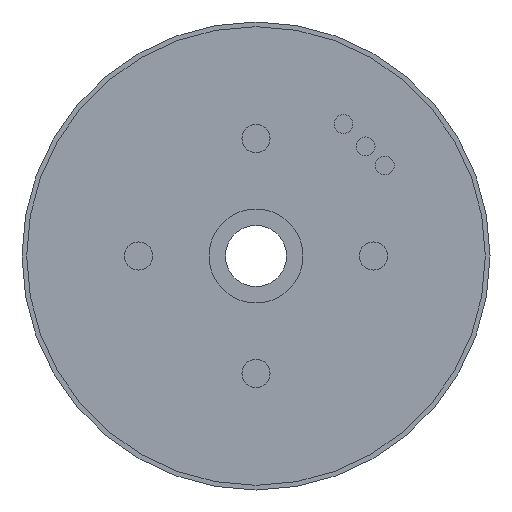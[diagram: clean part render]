
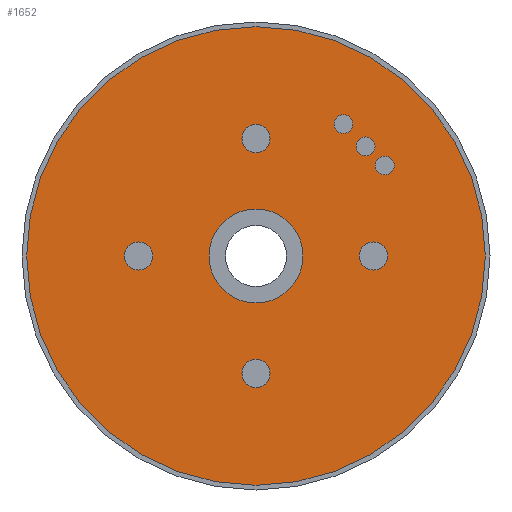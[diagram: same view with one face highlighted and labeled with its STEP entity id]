
A CAD part, left-side view. The second image highlights one B-rep face of the part: STEP entity #1652.
In plain terms, the highlighted planar face has unit normal (-1, 0, 0).
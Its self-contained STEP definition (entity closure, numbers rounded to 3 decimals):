
#47=CARTESIAN_POINT('',(-31.104,0.,0.));
#48=DIRECTION('',(1.,0.,0.));
#49=DIRECTION('',(0.,0.,1.));
#50=AXIS2_PLACEMENT_3D('',#47,#48,#49);
#56=CARTESIAN_POINT('',(-31.104,0.,0.));
#57=DIRECTION('',(-1.,0.,0.));
#58=DIRECTION('',(0.,0.,1.));
#59=AXIS2_PLACEMENT_3D('',#56,#57,#58);
#65=CARTESIAN_POINT('',(-31.104,0.,0.));
#66=DIRECTION('',(-1.,0.,0.));
#67=DIRECTION('',(0.,-1.,0.));
#68=AXIS2_PLACEMENT_3D('',#65,#66,#67);
#70=CARTESIAN_POINT('',(-31.104,0.,0.));
#71=DIRECTION('',(-1.,0.,0.));
#72=DIRECTION('',(0.,1.,0.));
#73=AXIS2_PLACEMENT_3D('',#70,#71,#72);
#75=CARTESIAN_POINT('',(-31.104,0.,12.5));
#76=DIRECTION('',(-1.,0.,0.));
#77=DIRECTION('',(0.,-1.,0.));
#78=AXIS2_PLACEMENT_3D('',#75,#76,#77);
#80=CARTESIAN_POINT('',(-31.104,0.,12.5));
#81=DIRECTION('',(-1.,0.,0.));
#82=DIRECTION('',(0.,1.,0.));
#83=AXIS2_PLACEMENT_3D('',#80,#81,#82);
#85=CARTESIAN_POINT('',(-31.104,-12.5,0.));
#86=DIRECTION('',(-1.,0.,0.));
#87=DIRECTION('',(0.,0.,-1.));
#88=AXIS2_PLACEMENT_3D('',#85,#86,#87);
#90=CARTESIAN_POINT('',(-31.104,-12.5,0.));
#91=DIRECTION('',(-1.,0.,0.));
#92=DIRECTION('',(0.,0.,1.));
#93=AXIS2_PLACEMENT_3D('',#90,#91,#92);
#95=CARTESIAN_POINT('',(-31.104,0.,-12.5));
#96=DIRECTION('',(-1.,0.,0.));
#97=DIRECTION('',(0.,1.,0.));
#98=AXIS2_PLACEMENT_3D('',#95,#96,#97);
#100=CARTESIAN_POINT('',(-31.104,0.,-12.5));
#101=DIRECTION('',(-1.,0.,0.));
#102=DIRECTION('',(0.,-1.,0.));
#103=AXIS2_PLACEMENT_3D('',#100,#101,#102);
#105=CARTESIAN_POINT('',(-31.104,12.5,0.));
#106=DIRECTION('',(-1.,0.,0.));
#107=DIRECTION('',(0.,0.,1.));
#108=AXIS2_PLACEMENT_3D('',#105,#106,#107);
#110=CARTESIAN_POINT('',(-31.104,12.5,0.));
#111=DIRECTION('',(-1.,0.,0.));
#112=DIRECTION('',(0.,0.,-1.));
#113=AXIS2_PLACEMENT_3D('',#110,#111,#112);
#115=CARTESIAN_POINT('',(-31.104,-11.667,11.667));
#116=DIRECTION('',(-1.,0.,0.));
#117=DIRECTION('',(0.,-1.,0.));
#118=AXIS2_PLACEMENT_3D('',#115,#116,#117);
#120=CARTESIAN_POINT('',(-31.104,-11.667,11.667));
#121=DIRECTION('',(-1.,0.,0.));
#122=DIRECTION('',(0.,1.,0.));
#123=AXIS2_PLACEMENT_3D('',#120,#121,#122);
#125=CARTESIAN_POINT('',(-31.104,-9.302,14.032));
#126=DIRECTION('',(-1.,0.,0.));
#127=DIRECTION('',(0.,-1.,0.));
#128=AXIS2_PLACEMENT_3D('',#125,#126,#127);
#130=CARTESIAN_POINT('',(-31.104,-9.302,14.032));
#131=DIRECTION('',(-1.,0.,0.));
#132=DIRECTION('',(0.,1.,0.));
#133=AXIS2_PLACEMENT_3D('',#130,#131,#132);
#135=CARTESIAN_POINT('',(-31.104,-13.704,9.63));
#136=DIRECTION('',(-1.,0.,0.));
#137=DIRECTION('',(0.,-1.,0.));
#138=AXIS2_PLACEMENT_3D('',#135,#136,#137);
#140=CARTESIAN_POINT('',(-31.104,-13.704,9.63));
#141=DIRECTION('',(-1.,0.,0.));
#142=DIRECTION('',(0.,1.,0.));
#143=AXIS2_PLACEMENT_3D('',#140,#141,#142);
#1263=CARTESIAN_POINT('',(-31.104,0.,24.4));
#1265=VERTEX_POINT('',#1263);
#1367=CARTESIAN_POINT('',(-31.104,0.,-24.4));
#1369=VERTEX_POINT('',#1367);
#1429=CARTESIAN_POINT('',(-31.104,-5.,0.));
#1430=CARTESIAN_POINT('',(-31.104,5.,0.));
#1431=VERTEX_POINT('',#1429);
#1432=VERTEX_POINT('',#1430);
#1441=CARTESIAN_POINT('',(-31.104,-1.5,12.5));
#1442=CARTESIAN_POINT('',(-31.104,1.5,12.5));
#1443=VERTEX_POINT('',#1441);
#1444=VERTEX_POINT('',#1442);
#1449=CARTESIAN_POINT('',(-31.104,-12.5,-1.5));
#1450=CARTESIAN_POINT('',(-31.104,-12.5,1.5));
#1451=VERTEX_POINT('',#1449);
#1452=VERTEX_POINT('',#1450);
#1457=CARTESIAN_POINT('',(-31.104,1.5,-12.5));
#1458=CARTESIAN_POINT('',(-31.104,-1.5,-12.5));
#1459=VERTEX_POINT('',#1457);
#1460=VERTEX_POINT('',#1458);
#1465=CARTESIAN_POINT('',(-31.104,12.5,1.5));
#1466=CARTESIAN_POINT('',(-31.104,12.5,-1.5));
#1467=VERTEX_POINT('',#1465);
#1468=VERTEX_POINT('',#1466);
#1481=CARTESIAN_POINT('',(-31.104,-12.667,
11.667));
#1482=CARTESIAN_POINT('',(-31.104,-10.667,
11.667));
#1483=VERTEX_POINT('',#1481);
#1484=VERTEX_POINT('',#1482);
#1485=CARTESIAN_POINT('',(-31.104,-10.302,
14.032));
#1486=CARTESIAN_POINT('',(-31.104,-8.302,
14.032));
#1487=VERTEX_POINT('',#1485);
#1488=VERTEX_POINT('',#1486);
#1489=CARTESIAN_POINT('',(-31.104,-14.704,
9.63));
#1490=CARTESIAN_POINT('',(-31.104,-12.704,
9.63));
#1491=VERTEX_POINT('',#1489);
#1492=VERTEX_POINT('',#1490);
#1595=CARTESIAN_POINT('',(-31.104,0.,0.));
#1596=DIRECTION('',(1.,0.,0.));
#1597=DIRECTION('',(0.,0.,1.));
#1598=AXIS2_PLACEMENT_3D('',#1595,#1596,#1597);
#1599=PLANE('',#1598);
#1600=ORIENTED_EDGE('',*,*,#1588,.F.);
#1601=ORIENTED_EDGE('',*,*,#1577,.T.);
#1602=EDGE_LOOP('',(#1600,#1601));
#1603=FACE_OUTER_BOUND('',#1602,.F.);
#1605=ORIENTED_EDGE('',*,*,#1604,.T.);
#1607=ORIENTED_EDGE('',*,*,#1606,.T.);
#1608=EDGE_LOOP('',(#1605,#1607));
#1609=FACE_BOUND('',#1608,.F.);
#1611=ORIENTED_EDGE('',*,*,#1610,.T.);
#1613=ORIENTED_EDGE('',*,*,#1612,.T.);
#1614=EDGE_LOOP('',(#1611,#1613));
#1615=FACE_BOUND('',#1614,.F.);
#1617=ORIENTED_EDGE('',*,*,#1616,.T.);
#1619=ORIENTED_EDGE('',*,*,#1618,.T.);
#1620=EDGE_LOOP('',(#1617,#1619));
#1621=FACE_BOUND('',#1620,.F.);
#1623=ORIENTED_EDGE('',*,*,#1622,.T.);
#1625=ORIENTED_EDGE('',*,*,#1624,.T.);
#1626=EDGE_LOOP('',(#1623,#1625));
#1627=FACE_BOUND('',#1626,.F.);
#1629=ORIENTED_EDGE('',*,*,#1628,.T.);
#1631=ORIENTED_EDGE('',*,*,#1630,.T.);
#1632=EDGE_LOOP('',(#1629,#1631));
#1633=FACE_BOUND('',#1632,.F.);
#1635=ORIENTED_EDGE('',*,*,#1634,.T.);
#1637=ORIENTED_EDGE('',*,*,#1636,.T.);
#1638=EDGE_LOOP('',(#1635,#1637));
#1639=FACE_BOUND('',#1638,.F.);
#1641=ORIENTED_EDGE('',*,*,#1640,.T.);
#1643=ORIENTED_EDGE('',*,*,#1642,.T.);
#1644=EDGE_LOOP('',(#1641,#1643));
#1645=FACE_BOUND('',#1644,.F.);
#1647=ORIENTED_EDGE('',*,*,#1646,.T.);
#1649=ORIENTED_EDGE('',*,*,#1648,.T.);
#1650=EDGE_LOOP('',(#1647,#1649));
#1651=FACE_BOUND('',#1650,.F.);
#51=CIRCLE('',#50,24.4);
#60=CIRCLE('',#59,24.4);
#69=CIRCLE('',#68,5.);
#74=CIRCLE('',#73,5.);
#79=CIRCLE('',#78,1.5);
#84=CIRCLE('',#83,1.5);
#89=CIRCLE('',#88,1.5);
#94=CIRCLE('',#93,1.5);
#99=CIRCLE('',#98,1.5);
#104=CIRCLE('',#103,1.5);
#109=CIRCLE('',#108,1.5);
#114=CIRCLE('',#113,1.5);
#119=CIRCLE('',#118,1.);
#124=CIRCLE('',#123,1.);
#129=CIRCLE('',#128,1.);
#134=CIRCLE('',#133,1.);
#139=CIRCLE('',#138,1.);
#144=CIRCLE('',#143,1.);
#1577=EDGE_CURVE('',#1265,#1369,#51,.T.);
#1588=EDGE_CURVE('',#1265,#1369,#60,.T.);
#1604=EDGE_CURVE('',#1431,#1432,#69,.T.);
#1606=EDGE_CURVE('',#1432,#1431,#74,.T.);
#1610=EDGE_CURVE('',#1443,#1444,#79,.T.);
#1612=EDGE_CURVE('',#1444,#1443,#84,.T.);
#1616=EDGE_CURVE('',#1451,#1452,#89,.T.);
#1618=EDGE_CURVE('',#1452,#1451,#94,.T.);
#1622=EDGE_CURVE('',#1459,#1460,#99,.T.);
#1624=EDGE_CURVE('',#1460,#1459,#104,.T.);
#1628=EDGE_CURVE('',#1467,#1468,#109,.T.);
#1630=EDGE_CURVE('',#1468,#1467,#114,.T.);
#1634=EDGE_CURVE('',#1483,#1484,#119,.T.);
#1636=EDGE_CURVE('',#1484,#1483,#124,.T.);
#1640=EDGE_CURVE('',#1487,#1488,#129,.T.);
#1642=EDGE_CURVE('',#1488,#1487,#134,.T.);
#1646=EDGE_CURVE('',#1491,#1492,#139,.T.);
#1648=EDGE_CURVE('',#1492,#1491,#144,.T.);
#1652=ADVANCED_FACE('',(#1603,#1609,#1615,#1621,#1627,#1633,#1639,#1645,#1651),
#1599,.F.);
